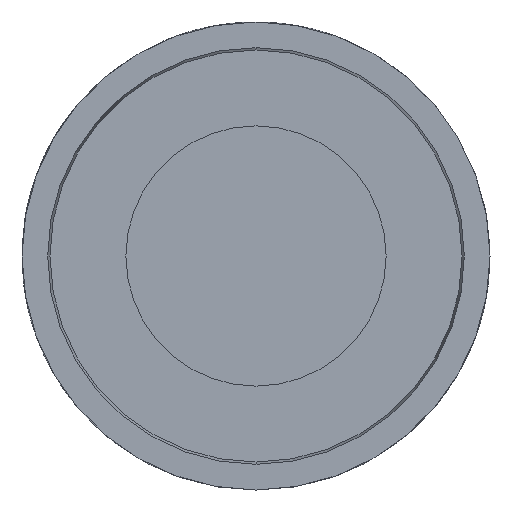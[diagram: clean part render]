
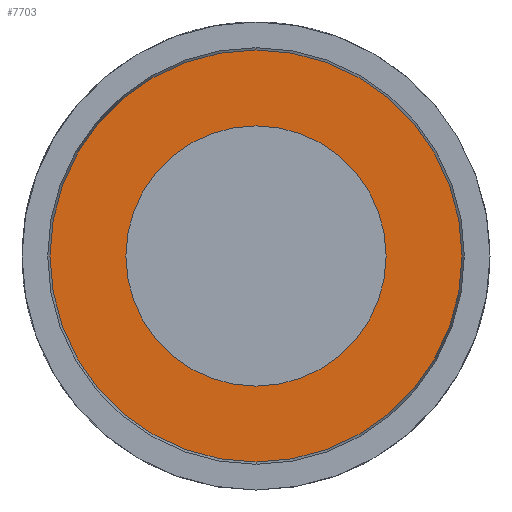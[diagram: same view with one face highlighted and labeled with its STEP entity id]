
A CAD part, left-side view. The second image highlights one B-rep face of the part: STEP entity #7703.
In plain terms, the highlighted planar face has unit normal (-1, 0, 0).
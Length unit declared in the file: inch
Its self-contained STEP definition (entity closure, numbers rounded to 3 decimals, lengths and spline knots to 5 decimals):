
#317 = CARTESIAN_POINT ( 'NONE',  ( 0., 0., 0. ) ) ;
#491 = ORIENTED_EDGE ( 'NONE', *, *, #9297, .F. ) ;
#1093 = CARTESIAN_POINT ( 'NONE',  ( 0., 0., 0. ) ) ;
#1518 = DIRECTION ( 'NONE',  ( 0., 0., -1. ) ) ;
#1520 = PLANE ( 'NONE',  #7583 ) ;
#1727 = ORIENTED_EDGE ( 'NONE', *, *, #12695, .F. ) ;
#2317 = CARTESIAN_POINT ( 'NONE',  ( 0., 0., 0. ) ) ;
#2688 = ORIENTED_EDGE ( 'NONE', *, *, #13977, .F. ) ;
#3225 = DIRECTION ( 'NONE',  ( 1., 0., 0. ) ) ;
#3799 = CIRCLE ( 'NONE', #19185, 0.0695 ) ;
#3861 = CIRCLE ( 'NONE', #20630, 0.11 ) ;
#6807 = AXIS2_PLACEMENT_3D ( 'NONE', #2317, #7441, #19296 ) ;
#6986 = DIRECTION ( 'NONE',  ( 1., 0., 0. ) ) ;
#7441 = DIRECTION ( 'NONE',  ( -1., 0., 0. ) ) ;
#7583 = AXIS2_PLACEMENT_3D ( 'NONE', #1093, #16236, #11177 ) ;
#7703 = ADVANCED_FACE ( 'NONE', ( #19579, #21536 ), #1520, .F. ) ;
#8336 = AXIS2_PLACEMENT_3D ( 'NONE', #317, #6986, #1518 ) ;
#9297 = EDGE_CURVE ( 'NONE', #17966, #13375, #12222, .T. ) ;
#9510 = VERTEX_POINT ( 'NONE', #16731 ) ;
#10881 = EDGE_LOOP ( 'NONE', ( #2688, #1727 ) ) ;
#11177 = DIRECTION ( 'NONE',  ( 0., 0., -1. ) ) ;
#11207 = CARTESIAN_POINT ( 'NONE',  ( 0., 0., 0. ) ) ;
#11398 = CARTESIAN_POINT ( 'NONE',  ( 0., 0., 0.0695 ) ) ;
#11777 = EDGE_LOOP ( 'NONE', ( #14017, #491 ) ) ;
#11904 = CARTESIAN_POINT ( 'NONE',  ( 0., 0., 0.11 ) ) ;
#12222 = CIRCLE ( 'NONE', #8336, 0.11 ) ;
#12438 = CIRCLE ( 'NONE', #6807, 0.0695 ) ;
#12695 = EDGE_CURVE ( 'NONE', #9510, #16712, #12438, .T. ) ;
#13375 = VERTEX_POINT ( 'NONE', #20829 ) ;
#13977 = EDGE_CURVE ( 'NONE', #16712, #9510, #3799, .T. ) ;
#14017 = ORIENTED_EDGE ( 'NONE', *, *, #18004, .F. ) ;
#16236 = DIRECTION ( 'NONE',  ( 1., 0., 0. ) ) ;
#16712 = VERTEX_POINT ( 'NONE', #11398 ) ;
#16718 = DIRECTION ( 'NONE',  ( 0., 0., -1. ) ) ;
#16731 = CARTESIAN_POINT ( 'NONE',  ( 0., 0., -0.0695 ) ) ;
#17889 = DIRECTION ( 'NONE',  ( -1., 0., 0. ) ) ;
#17966 = VERTEX_POINT ( 'NONE', #11904 ) ;
#17989 = DIRECTION ( 'NONE',  ( 0., 0., 1. ) ) ;
#18004 = EDGE_CURVE ( 'NONE', #13375, #17966, #3861, .T. ) ;
#18247 = CARTESIAN_POINT ( 'NONE',  ( 0., 0., 0. ) ) ;
#19185 = AXIS2_PLACEMENT_3D ( 'NONE', #11207, #17889, #17989 ) ;
#19296 = DIRECTION ( 'NONE',  ( 0., 0., 1. ) ) ;
#19579 = FACE_BOUND ( 'NONE', #10881, .T. ) ;
#20630 = AXIS2_PLACEMENT_3D ( 'NONE', #18247, #3225, #16718 ) ;
#20829 = CARTESIAN_POINT ( 'NONE',  ( 0., 0., -0.11 ) ) ;
#21536 = FACE_OUTER_BOUND ( 'NONE', #11777, .T. ) ;
